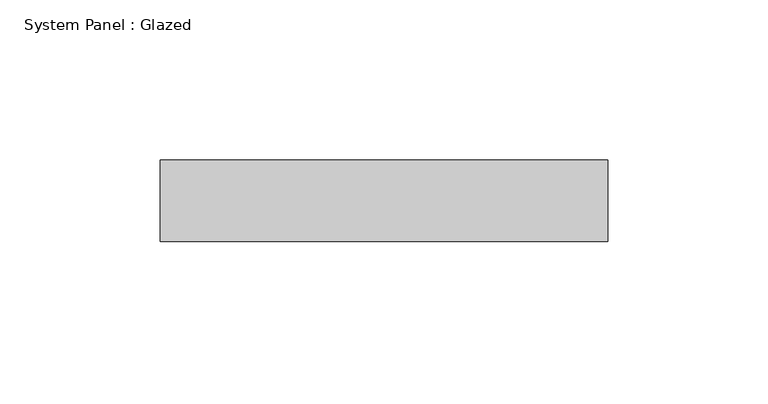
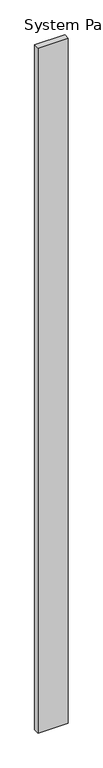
"""IFC4 building model written with IfcOpenShell, lengths in millimetres: plate geometry, System Panel : Glazed."""

from ifc_helpers import new_model, si_unit, origin, origin_with_axes, place, context, project, spatial, polyline, outline, extrude, source, transform, mapped, element, save


def system_panel_glazed_bf13c76d(model_context):
    return source(origin(), model_context, "Body", "SweptSolid", [
        extrude(outline(polyline([(69.649919, 19.05), (-69.649919, 19.05), (-69.649919, 44.45), (69.649919, 44.45), (69.649919, 19.05)])), origin_with_axes(), (0.0, 0.0, 1.0), 3352.8),
    ])


if __name__ == "__main__":
    model = new_model("IFC4")
    model_context = context("Model", 3, world=origin())
    ifc_project = project(units=[si_unit("LENGTHUNIT", "METRE", prefix="MILLI")], contexts=[model_context])
    site = spatial("IfcSite", under=ifc_project)
    building = spatial("IfcBuilding", under=site)
    placement = place(None, origin())
    system_panel_glazed_shape = system_panel_glazed_bf13c76d(model_context)
    element("IfcPlate", 1, ObjectType="System Panel : Glazed", at=placement, inside=building, context=model_context, shape_type="MappedRepresentation", body=[
        mapped(system_panel_glazed_shape, transform((0.0, 0.0, 0.0), x_axis=(1.0, 0.0, 0.0), y_axis=(0.0, 1.0, 0.0), z_axis=(0.0, 0.0, 1.0))),
    ])
    save(model, "model.ifc")
